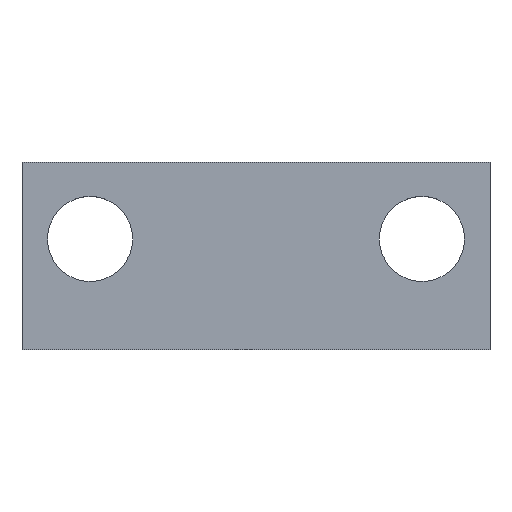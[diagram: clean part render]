
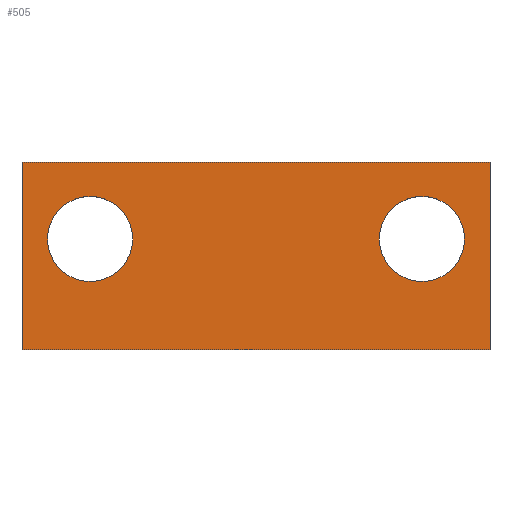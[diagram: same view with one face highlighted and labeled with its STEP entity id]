
A CAD part, top view. The second image highlights one B-rep face of the part: STEP entity #505.
In plain terms, the highlighted planar face has unit normal (0, 0, 1).
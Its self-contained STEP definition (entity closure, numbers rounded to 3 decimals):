
#24 = VERTEX_POINT('',#25);
#25 = CARTESIAN_POINT('',(0.,110.,10.));
#32 = PLANE('',#33);
#33 = AXIS2_PLACEMENT_3D('',#34,#35,#36);
#34 = CARTESIAN_POINT('',(0.,110.,0.));
#35 = DIRECTION('',(0.,1.,0.));
#36 = DIRECTION('',(1.,0.,0.));
#44 = PLANE('',#45);
#45 = AXIS2_PLACEMENT_3D('',#46,#47,#48);
#46 = CARTESIAN_POINT('',(0.,0.,0.));
#47 = DIRECTION('',(-1.,0.,0.));
#48 = DIRECTION('',(0.,1.,0.));
#56 = EDGE_CURVE('',#24,#57,#59,.T.);
#57 = VERTEX_POINT('',#58);
#58 = CARTESIAN_POINT('',(275.,110.,10.));
#59 = SURFACE_CURVE('',#60,(#64,#71),.PCURVE_S1.);
#60 = LINE('',#61,#62);
#61 = CARTESIAN_POINT('',(0.,110.,10.));
#62 = VECTOR('',#63,1.);
#63 = DIRECTION('',(1.,0.,0.));
#64 = PCURVE('',#32,#65);
#65 = DEFINITIONAL_REPRESENTATION('',(#66),#70);
#66 = LINE('',#67,#68);
#67 = CARTESIAN_POINT('',(0.,-10.));
#68 = VECTOR('',#69,1.);
#69 = DIRECTION('',(1.,0.));
#70 = ( GEOMETRIC_REPRESENTATION_CONTEXT(2) 
PARAMETRIC_REPRESENTATION_CONTEXT() REPRESENTATION_CONTEXT('2D SPACE',''
  ) );
#71 = PCURVE('',#72,#77);
#72 = PLANE('',#73);
#73 = AXIS2_PLACEMENT_3D('',#74,#75,#76);
#74 = CARTESIAN_POINT('',(137.5,55.,10.));
#75 = DIRECTION('',(-0.,-0.,-1.));
#76 = DIRECTION('',(-1.,0.,0.));
#77 = DEFINITIONAL_REPRESENTATION('',(#78),#82);
#78 = LINE('',#79,#80);
#79 = CARTESIAN_POINT('',(137.5,55.));
#80 = VECTOR('',#81,1.);
#81 = DIRECTION('',(-1.,0.));
#82 = ( GEOMETRIC_REPRESENTATION_CONTEXT(2) 
PARAMETRIC_REPRESENTATION_CONTEXT() REPRESENTATION_CONTEXT('2D SPACE',''
  ) );
#100 = PLANE('',#101);
#101 = AXIS2_PLACEMENT_3D('',#102,#103,#104);
#102 = CARTESIAN_POINT('',(275.,110.,0.));
#103 = DIRECTION('',(1.,0.,0.));
#104 = DIRECTION('',(0.,-1.,0.));
#144 = VERTEX_POINT('',#145);
#145 = CARTESIAN_POINT('',(0.,0.,10.));
#159 = PLANE('',#160);
#160 = AXIS2_PLACEMENT_3D('',#161,#162,#163);
#161 = CARTESIAN_POINT('',(275.,0.,0.));
#162 = DIRECTION('',(0.,-1.,0.));
#163 = DIRECTION('',(-1.,0.,0.));
#171 = EDGE_CURVE('',#144,#24,#172,.T.);
#172 = SURFACE_CURVE('',#173,(#177,#184),.PCURVE_S1.);
#173 = LINE('',#174,#175);
#174 = CARTESIAN_POINT('',(0.,0.,10.));
#175 = VECTOR('',#176,1.);
#176 = DIRECTION('',(0.,1.,0.));
#177 = PCURVE('',#44,#178);
#178 = DEFINITIONAL_REPRESENTATION('',(#179),#183);
#179 = LINE('',#180,#181);
#180 = CARTESIAN_POINT('',(0.,-10.));
#181 = VECTOR('',#182,1.);
#182 = DIRECTION('',(1.,0.));
#183 = ( GEOMETRIC_REPRESENTATION_CONTEXT(2) 
PARAMETRIC_REPRESENTATION_CONTEXT() REPRESENTATION_CONTEXT('2D SPACE',''
  ) );
#184 = PCURVE('',#72,#185);
#185 = DEFINITIONAL_REPRESENTATION('',(#186),#190);
#186 = LINE('',#187,#188);
#187 = CARTESIAN_POINT('',(137.5,-55.));
#188 = VECTOR('',#189,1.);
#189 = DIRECTION('',(0.,1.));
#190 = ( GEOMETRIC_REPRESENTATION_CONTEXT(2) 
PARAMETRIC_REPRESENTATION_CONTEXT() REPRESENTATION_CONTEXT('2D SPACE',''
  ) );
#280 = EDGE_CURVE('',#57,#281,#283,.T.);
#281 = VERTEX_POINT('',#282);
#282 = CARTESIAN_POINT('',(275.,0.,10.));
#283 = SURFACE_CURVE('',#284,(#288,#295),.PCURVE_S1.);
#284 = LINE('',#285,#286);
#285 = CARTESIAN_POINT('',(275.,110.,10.));
#286 = VECTOR('',#287,1.);
#287 = DIRECTION('',(0.,-1.,0.));
#288 = PCURVE('',#100,#289);
#289 = DEFINITIONAL_REPRESENTATION('',(#290),#294);
#290 = LINE('',#291,#292);
#291 = CARTESIAN_POINT('',(0.,-10.));
#292 = VECTOR('',#293,1.);
#293 = DIRECTION('',(1.,0.));
#294 = ( GEOMETRIC_REPRESENTATION_CONTEXT(2) 
PARAMETRIC_REPRESENTATION_CONTEXT() REPRESENTATION_CONTEXT('2D SPACE',''
  ) );
#295 = PCURVE('',#72,#296);
#296 = DEFINITIONAL_REPRESENTATION('',(#297),#301);
#297 = LINE('',#298,#299);
#298 = CARTESIAN_POINT('',(-137.5,55.));
#299 = VECTOR('',#300,1.);
#300 = DIRECTION('',(0.,-1.));
#301 = ( GEOMETRIC_REPRESENTATION_CONTEXT(2) 
PARAMETRIC_REPRESENTATION_CONTEXT() REPRESENTATION_CONTEXT('2D SPACE',''
  ) );
#459 = CYLINDRICAL_SURFACE('',#460,25.);
#460 = AXIS2_PLACEMENT_3D('',#461,#462,#463);
#461 = CARTESIAN_POINT('',(235.,65.,10.));
#462 = DIRECTION('',(0.,0.,1.));
#463 = DIRECTION('',(1.,0.,0.));
#494 = CYLINDRICAL_SURFACE('',#495,25.);
#495 = AXIS2_PLACEMENT_3D('',#496,#497,#498);
#496 = CARTESIAN_POINT('',(40.,65.,10.));
#497 = DIRECTION('',(0.,0.,1.));
#498 = DIRECTION('',(1.,0.,0.));
#505 = ADVANCED_FACE('',(#506,#532,#562),#72,.F.);
#506 = FACE_BOUND('',#507,.F.);
#507 = EDGE_LOOP('',(#508,#509,#510,#531));
#508 = ORIENTED_EDGE('',*,*,#56,.T.);
#509 = ORIENTED_EDGE('',*,*,#280,.T.);
#510 = ORIENTED_EDGE('',*,*,#511,.T.);
#511 = EDGE_CURVE('',#281,#144,#512,.T.);
#512 = SURFACE_CURVE('',#513,(#517,#524),.PCURVE_S1.);
#513 = LINE('',#514,#515);
#514 = CARTESIAN_POINT('',(275.,0.,10.));
#515 = VECTOR('',#516,1.);
#516 = DIRECTION('',(-1.,0.,0.));
#517 = PCURVE('',#72,#518);
#518 = DEFINITIONAL_REPRESENTATION('',(#519),#523);
#519 = LINE('',#520,#521);
#520 = CARTESIAN_POINT('',(-137.5,-55.));
#521 = VECTOR('',#522,1.);
#522 = DIRECTION('',(1.,0.));
#523 = ( GEOMETRIC_REPRESENTATION_CONTEXT(2) 
PARAMETRIC_REPRESENTATION_CONTEXT() REPRESENTATION_CONTEXT('2D SPACE',''
  ) );
#524 = PCURVE('',#159,#525);
#525 = DEFINITIONAL_REPRESENTATION('',(#526),#530);
#526 = LINE('',#527,#528);
#527 = CARTESIAN_POINT('',(0.,-10.));
#528 = VECTOR('',#529,1.);
#529 = DIRECTION('',(1.,0.));
#530 = ( GEOMETRIC_REPRESENTATION_CONTEXT(2) 
PARAMETRIC_REPRESENTATION_CONTEXT() REPRESENTATION_CONTEXT('2D SPACE',''
  ) );
#531 = ORIENTED_EDGE('',*,*,#171,.T.);
#532 = FACE_BOUND('',#533,.F.);
#533 = EDGE_LOOP('',(#534));
#534 = ORIENTED_EDGE('',*,*,#535,.T.);
#535 = EDGE_CURVE('',#536,#536,#538,.T.);
#536 = VERTEX_POINT('',#537);
#537 = CARTESIAN_POINT('',(260.,65.,10.));
#538 = SURFACE_CURVE('',#539,(#544,#555),.PCURVE_S1.);
#539 = CIRCLE('',#540,25.);
#540 = AXIS2_PLACEMENT_3D('',#541,#542,#543);
#541 = CARTESIAN_POINT('',(235.,65.,10.));
#542 = DIRECTION('',(0.,0.,1.));
#543 = DIRECTION('',(1.,0.,0.));
#544 = PCURVE('',#72,#545);
#545 = DEFINITIONAL_REPRESENTATION('',(#546),#554);
#546 = ( BOUNDED_CURVE() B_SPLINE_CURVE(2,(#547,#548,#549,#550,#551,#552
,#553),.UNSPECIFIED.,.T.,.F.) B_SPLINE_CURVE_WITH_KNOTS((1,2,2,2,2,1),(
    -2.094,0.,2.094,4.189,6.283,
8.378),.UNSPECIFIED.) CURVE() GEOMETRIC_REPRESENTATION_ITEM() 
RATIONAL_B_SPLINE_CURVE((1.,0.5,1.,0.5,1.,0.5,1.)) REPRESENTATION_ITEM(
  '') );
#547 = CARTESIAN_POINT('',(-122.5,10.));
#548 = CARTESIAN_POINT('',(-122.5,53.301));
#549 = CARTESIAN_POINT('',(-85.,31.651));
#550 = CARTESIAN_POINT('',(-47.5,10.));
#551 = CARTESIAN_POINT('',(-85.,-11.651));
#552 = CARTESIAN_POINT('',(-122.5,-33.301));
#553 = CARTESIAN_POINT('',(-122.5,10.));
#554 = ( GEOMETRIC_REPRESENTATION_CONTEXT(2) 
PARAMETRIC_REPRESENTATION_CONTEXT() REPRESENTATION_CONTEXT('2D SPACE',''
  ) );
#555 = PCURVE('',#459,#556);
#556 = DEFINITIONAL_REPRESENTATION('',(#557),#561);
#557 = LINE('',#558,#559);
#558 = CARTESIAN_POINT('',(0.,0.));
#559 = VECTOR('',#560,1.);
#560 = DIRECTION('',(1.,0.));
#561 = ( GEOMETRIC_REPRESENTATION_CONTEXT(2) 
PARAMETRIC_REPRESENTATION_CONTEXT() REPRESENTATION_CONTEXT('2D SPACE',''
  ) );
#562 = FACE_BOUND('',#563,.F.);
#563 = EDGE_LOOP('',(#564));
#564 = ORIENTED_EDGE('',*,*,#565,.T.);
#565 = EDGE_CURVE('',#566,#566,#568,.T.);
#566 = VERTEX_POINT('',#567);
#567 = CARTESIAN_POINT('',(65.,65.,10.));
#568 = SURFACE_CURVE('',#569,(#574,#585),.PCURVE_S1.);
#569 = CIRCLE('',#570,25.);
#570 = AXIS2_PLACEMENT_3D('',#571,#572,#573);
#571 = CARTESIAN_POINT('',(40.,65.,10.));
#572 = DIRECTION('',(0.,0.,1.));
#573 = DIRECTION('',(1.,0.,0.));
#574 = PCURVE('',#72,#575);
#575 = DEFINITIONAL_REPRESENTATION('',(#576),#584);
#576 = ( BOUNDED_CURVE() B_SPLINE_CURVE(2,(#577,#578,#579,#580,#581,#582
,#583),.UNSPECIFIED.,.T.,.F.) B_SPLINE_CURVE_WITH_KNOTS((1,2,2,2,2,1),(
    -2.094,0.,2.094,4.189,6.283,
8.378),.UNSPECIFIED.) CURVE() GEOMETRIC_REPRESENTATION_ITEM() 
RATIONAL_B_SPLINE_CURVE((1.,0.5,1.,0.5,1.,0.5,1.)) REPRESENTATION_ITEM(
  '') );
#577 = CARTESIAN_POINT('',(72.5,10.));
#578 = CARTESIAN_POINT('',(72.5,53.301));
#579 = CARTESIAN_POINT('',(110.,31.651));
#580 = CARTESIAN_POINT('',(147.5,10.));
#581 = CARTESIAN_POINT('',(110.,-11.651));
#582 = CARTESIAN_POINT('',(72.5,-33.301));
#583 = CARTESIAN_POINT('',(72.5,10.));
#584 = ( GEOMETRIC_REPRESENTATION_CONTEXT(2) 
PARAMETRIC_REPRESENTATION_CONTEXT() REPRESENTATION_CONTEXT('2D SPACE',''
  ) );
#585 = PCURVE('',#494,#586);
#586 = DEFINITIONAL_REPRESENTATION('',(#587),#591);
#587 = LINE('',#588,#589);
#588 = CARTESIAN_POINT('',(0.,0.));
#589 = VECTOR('',#590,1.);
#590 = DIRECTION('',(1.,0.));
#591 = ( GEOMETRIC_REPRESENTATION_CONTEXT(2) 
PARAMETRIC_REPRESENTATION_CONTEXT() REPRESENTATION_CONTEXT('2D SPACE',''
  ) );
